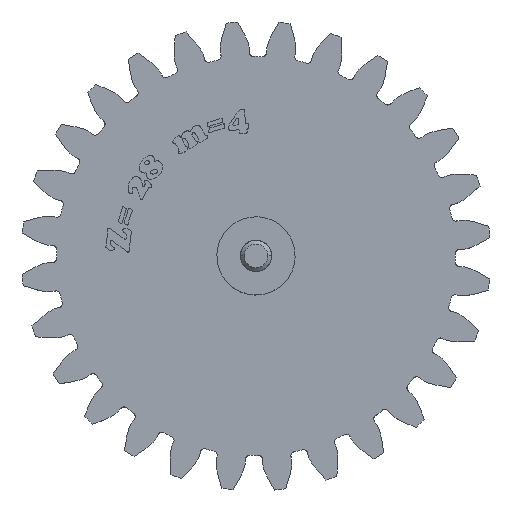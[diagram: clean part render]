
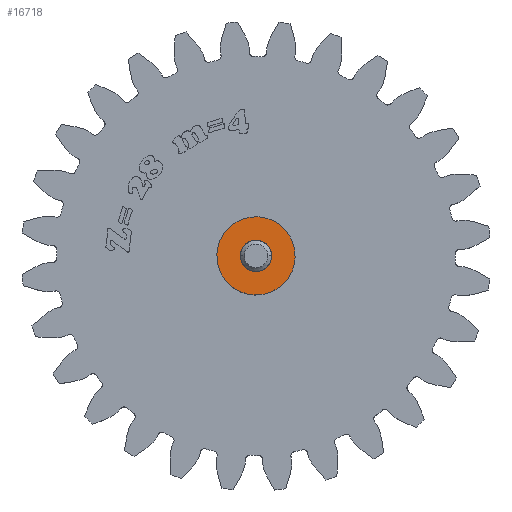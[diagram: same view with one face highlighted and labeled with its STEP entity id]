
A CAD part, top view. The second image highlights one B-rep face of the part: STEP entity #16718.
In plain terms, the highlighted planar face has unit normal (0, 0, 1).
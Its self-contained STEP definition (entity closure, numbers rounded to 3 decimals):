
#739 = VERTEX_POINT ( 'NONE', #12833 ) ;
#958 = VERTEX_POINT ( 'NONE', #20244 ) ;
#997 = CARTESIAN_POINT ( 'NONE',  ( 0., 0., 3. ) ) ;
#2132 = DIRECTION ( 'NONE',  ( 1., 0., 0. ) ) ;
#2531 = DIRECTION ( 'NONE',  ( 0., 0., 1. ) ) ;
#3190 = DIRECTION ( 'NONE',  ( 1., 0., 0. ) ) ;
#4662 = ORIENTED_EDGE ( 'NONE', *, *, #7405, .T. ) ;
#4823 = CIRCLE ( 'NONE', #7152, 4. ) ;
#5555 = AXIS2_PLACEMENT_3D ( 'NONE', #14364, #11128, #3190 ) ;
#5854 = CARTESIAN_POINT ( 'NONE',  ( -10., 0., 3. ) ) ;
#6481 = EDGE_CURVE ( 'NONE', #8624, #958, #10230, .T. ) ;
#6568 = EDGE_CURVE ( 'NONE', #739, #8502, #19251, .T. ) ;
#7148 = FACE_BOUND ( 'NONE', #12657, .T. ) ;
#7152 = AXIS2_PLACEMENT_3D ( 'NONE', #15550, #8017, #20470 ) ;
#7369 = DIRECTION ( 'NONE',  ( 1., 0., 0. ) ) ;
#7405 = EDGE_CURVE ( 'NONE', #958, #8624, #20237, .T. ) ;
#8017 = DIRECTION ( 'NONE',  ( 0., 0., 1. ) ) ;
#8281 = EDGE_LOOP ( 'NONE', ( #15340, #4662 ) ) ;
#8502 = VERTEX_POINT ( 'NONE', #18956 ) ;
#8624 = VERTEX_POINT ( 'NONE', #5854 ) ;
#10230 = CIRCLE ( 'NONE', #18581, 10. ) ;
#10890 = AXIS2_PLACEMENT_3D ( 'NONE', #13607, #2531, #15288 ) ;
#11128 = DIRECTION ( 'NONE',  ( 0., 0., 1. ) ) ;
#11951 = PLANE ( 'NONE',  #19081 ) ;
#12277 = ORIENTED_EDGE ( 'NONE', *, *, #6568, .F. ) ;
#12657 = EDGE_LOOP ( 'NONE', ( #16269, #12277 ) ) ;
#12833 = CARTESIAN_POINT ( 'NONE',  ( 4., 0., 3. ) ) ;
#13607 = CARTESIAN_POINT ( 'NONE',  ( 0., 0., 3. ) ) ;
#14364 = CARTESIAN_POINT ( 'NONE',  ( 0., 0., 3. ) ) ;
#14992 = FACE_OUTER_BOUND ( 'NONE', #8281, .T. ) ;
#15288 = DIRECTION ( 'NONE',  ( 1., 0., 0. ) ) ;
#15340 = ORIENTED_EDGE ( 'NONE', *, *, #6481, .T. ) ;
#15550 = CARTESIAN_POINT ( 'NONE',  ( 0., 0., 3. ) ) ;
#16269 = ORIENTED_EDGE ( 'NONE', *, *, #19647, .F. ) ;
#16449 = CARTESIAN_POINT ( 'NONE',  ( 0., 0., 3. ) ) ;
#16718 = ADVANCED_FACE ( 'NONE', ( #14992, #7148 ), #11951, .T. ) ;
#18341 = DIRECTION ( 'NONE',  ( 0., 0., 1. ) ) ;
#18581 = AXIS2_PLACEMENT_3D ( 'NONE', #997, #20340, #7369 ) ;
#18956 = CARTESIAN_POINT ( 'NONE',  ( -4., 0., 3. ) ) ;
#19081 = AXIS2_PLACEMENT_3D ( 'NONE', #16449, #18341, #2132 ) ;
#19251 = CIRCLE ( 'NONE', #5555, 4. ) ;
#19647 = EDGE_CURVE ( 'NONE', #8502, #739, #4823, .T. ) ;
#20237 = CIRCLE ( 'NONE', #10890, 10. ) ;
#20244 = CARTESIAN_POINT ( 'NONE',  ( 10., 0., 3. ) ) ;
#20340 = DIRECTION ( 'NONE',  ( 0., 0., 1. ) ) ;
#20470 = DIRECTION ( 'NONE',  ( 1., 0., 0. ) ) ;
